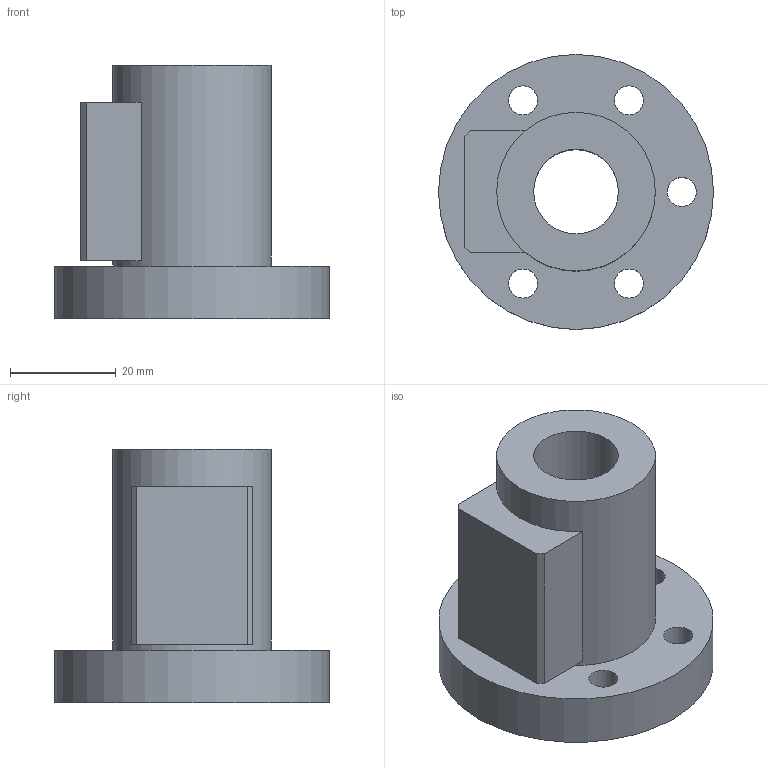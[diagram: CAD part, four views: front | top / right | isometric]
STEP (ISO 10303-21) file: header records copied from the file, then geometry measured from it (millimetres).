
FILE_DESCRIPTION(/* description */ (''),/* implementation_level */ '2;1');
FILE_NAME(/* name */ '16-4B2',/* time_stamp */ '2006-06-16T09:38:16+08:00',/* author */ (''),/* organization */ (''),/* preprocessor_version */ 'ST-DEVELOPER v9',/* originating_system */ 'UGS - NX 4.0',/* authorisation */ '');
FILE_SCHEMA (('CONFIG_CONTROL_DESIGN'));
Length unit declared in the file: millimetre
Products named in the file (1): 16-4B2
Bounding box: 52 x 52 x 48 mm (x, y, z)
Volume: 41203.4 mm3; surface area: 13345.1 mm2
Topology: 1 solids, 1 shells, 28 faces, 61 edges, 42 vertices
Faces by surface type: plane 15, cylinder 13
Full cylindrical faces by diameter (mm): 5.5 x5, 9.5 x5, 16 x1, 30 x1, 52 x1
Entity records: 794 total; most frequent: DIRECTION 130, CARTESIAN_POINT 111, ORIENTED_EDGE 88, EDGE_LOOP 60, AXIS2_PLACEMENT_3D 57, FACE_BOUND 45, EDGE_CURVE 44, VERTEX_POINT 38
